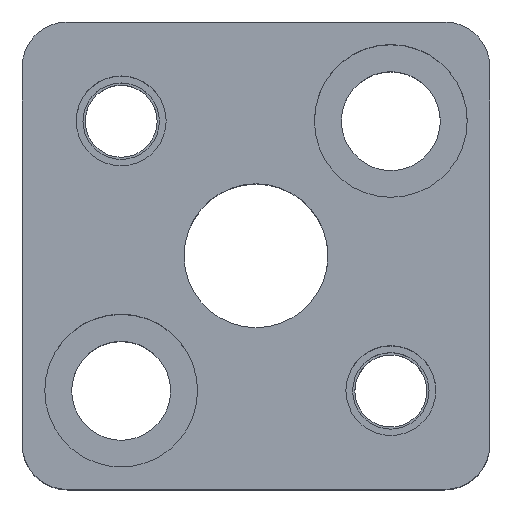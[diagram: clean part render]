
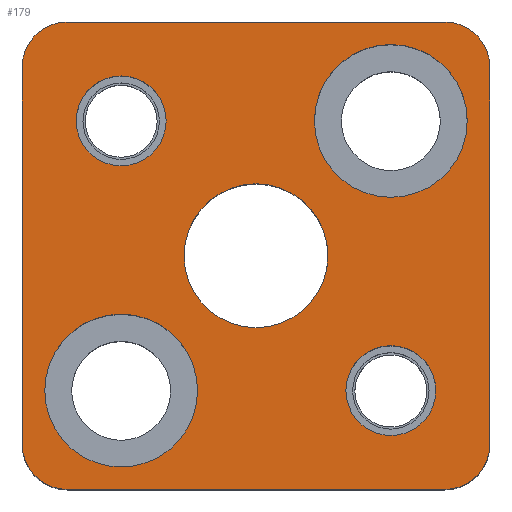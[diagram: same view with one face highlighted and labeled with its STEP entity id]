
A CAD part, top view. The second image highlights one B-rep face of the part: STEP entity #179.
In plain terms, the highlighted planar face has unit normal (0, 0, 1).
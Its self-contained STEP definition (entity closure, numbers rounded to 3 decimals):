
#111=FACE_BOUND('',#314,.T.);
#112=FACE_BOUND('',#315,.T.);
#113=FACE_BOUND('',#316,.T.);
#114=FACE_BOUND('',#317,.T.);
#115=FACE_BOUND('',#318,.T.);
#116=FACE_BOUND('',#319,.T.);
#140=PLANE('',#1098);
#179=ADVANCED_FACE('',(#111,#112,#113,#114,#115,#116),#140,.T.);
#314=EDGE_LOOP('',(#527,#528,#529,#530,#531,#532,#533,#534));
#315=EDGE_LOOP('',(#535,#536));
#316=EDGE_LOOP('',(#537,#538));
#317=EDGE_LOOP('',(#539,#540));
#318=EDGE_LOOP('',(#541,#542));
#319=EDGE_LOOP('',(#543,#544));
#377=CIRCLE('',#1062,5.);
#379=CIRCLE('',#1065,5.);
#381=CIRCLE('',#1069,5.);
#383=CIRCLE('',#1072,5.);
#393=CIRCLE('',#1088,5.);
#394=CIRCLE('',#1089,5.);
#395=CIRCLE('',#1090,5.);
#396=CIRCLE('',#1091,5.);
#397=CIRCLE('',#1092,8.5);
#398=CIRCLE('',#1093,8.5);
#399=CIRCLE('',#1094,8.5);
#400=CIRCLE('',#1095,8.5);
#401=CIRCLE('',#1096,8.);
#402=CIRCLE('',#1097,8.);
#527=ORIENTED_EDGE('',*,*,#838,.T.);
#528=ORIENTED_EDGE('',*,*,#839,.T.);
#529=ORIENTED_EDGE('',*,*,#840,.T.);
#530=ORIENTED_EDGE('',*,*,#841,.T.);
#531=ORIENTED_EDGE('',*,*,#842,.T.);
#532=ORIENTED_EDGE('',*,*,#843,.T.);
#533=ORIENTED_EDGE('',*,*,#844,.T.);
#534=ORIENTED_EDGE('',*,*,#845,.T.);
#535=ORIENTED_EDGE('',*,*,#846,.F.);
#536=ORIENTED_EDGE('',*,*,#847,.F.);
#537=ORIENTED_EDGE('',*,*,#848,.F.);
#538=ORIENTED_EDGE('',*,*,#849,.F.);
#539=ORIENTED_EDGE('',*,*,#824,.F.);
#540=ORIENTED_EDGE('',*,*,#820,.F.);
#541=ORIENTED_EDGE('',*,*,#818,.F.);
#542=ORIENTED_EDGE('',*,*,#814,.F.);
#543=ORIENTED_EDGE('',*,*,#850,.T.);
#544=ORIENTED_EDGE('',*,*,#851,.T.);
#715=VERTEX_POINT('',#1546);
#716=VERTEX_POINT('',#1547);
#719=VERTEX_POINT('',#1559);
#720=VERTEX_POINT('',#1560);
#731=VERTEX_POINT('',#1596);
#732=VERTEX_POINT('',#1597);
#733=VERTEX_POINT('',#1599);
#734=VERTEX_POINT('',#1601);
#735=VERTEX_POINT('',#1603);
#736=VERTEX_POINT('',#1605);
#737=VERTEX_POINT('',#1607);
#738=VERTEX_POINT('',#1609);
#739=VERTEX_POINT('',#1612);
#740=VERTEX_POINT('',#1613);
#741=VERTEX_POINT('',#1616);
#742=VERTEX_POINT('',#1617);
#743=VERTEX_POINT('',#1620);
#744=VERTEX_POINT('',#1621);
#814=EDGE_CURVE('',#715,#716,#377,.T.);
#818=EDGE_CURVE('',#716,#715,#379,.T.);
#820=EDGE_CURVE('',#719,#720,#381,.T.);
#824=EDGE_CURVE('',#720,#719,#383,.T.);
#838=EDGE_CURVE('',#731,#732,#393,.T.);
#839=EDGE_CURVE('',#732,#733,#931,.T.);
#840=EDGE_CURVE('',#733,#734,#394,.T.);
#841=EDGE_CURVE('',#734,#735,#932,.T.);
#842=EDGE_CURVE('',#735,#736,#395,.T.);
#843=EDGE_CURVE('',#736,#737,#933,.T.);
#844=EDGE_CURVE('',#737,#738,#396,.T.);
#845=EDGE_CURVE('',#738,#731,#934,.T.);
#846=EDGE_CURVE('',#739,#740,#397,.T.);
#847=EDGE_CURVE('',#740,#739,#398,.T.);
#848=EDGE_CURVE('',#741,#742,#399,.T.);
#849=EDGE_CURVE('',#742,#741,#400,.T.);
#850=EDGE_CURVE('',#743,#744,#401,.T.);
#851=EDGE_CURVE('',#744,#743,#402,.T.);
#931=LINE('',#1598,#992);
#932=LINE('',#1602,#993);
#933=LINE('',#1606,#994);
#934=LINE('',#1610,#995);
#992=VECTOR('',#1306,1.);
#993=VECTOR('',#1309,1.);
#994=VECTOR('',#1312,1.);
#995=VECTOR('',#1315,1.);
#1062=AXIS2_PLACEMENT_3D('',#1545,#1244,#1245);
#1065=AXIS2_PLACEMENT_3D('',#1554,#1252,#1253);
#1069=AXIS2_PLACEMENT_3D('',#1558,#1260,#1261);
#1072=AXIS2_PLACEMENT_3D('',#1567,#1268,#1269);
#1088=AXIS2_PLACEMENT_3D('',#1595,#1304,#1305);
#1089=AXIS2_PLACEMENT_3D('',#1600,#1307,#1308);
#1090=AXIS2_PLACEMENT_3D('',#1604,#1310,#1311);
#1091=AXIS2_PLACEMENT_3D('',#1608,#1313,#1314);
#1092=AXIS2_PLACEMENT_3D('',#1611,#1316,#1317);
#1093=AXIS2_PLACEMENT_3D('',#1614,#1318,#1319);
#1094=AXIS2_PLACEMENT_3D('',#1615,#1320,#1321);
#1095=AXIS2_PLACEMENT_3D('',#1618,#1322,#1323);
#1096=AXIS2_PLACEMENT_3D('',#1619,#1324,#1325);
#1097=AXIS2_PLACEMENT_3D('',#1622,#1326,#1327);
#1098=AXIS2_PLACEMENT_3D('',#1623,#1328,#1329);
#1244=DIRECTION('',(0.,0.,1.));
#1245=DIRECTION('',(-1.,0.,0.));
#1252=DIRECTION('',(0.,0.,1.));
#1253=DIRECTION('',(1.,0.,0.));
#1260=DIRECTION('',(0.,0.,1.));
#1261=DIRECTION('',(-1.,0.,0.));
#1268=DIRECTION('',(0.,0.,1.));
#1269=DIRECTION('',(1.,0.,0.));
#1304=DIRECTION('',(0.,0.,1.));
#1305=DIRECTION('',(-0.707,0.707,0.));
#1306=DIRECTION('',(0.,1.,0.));
#1307=DIRECTION('',(0.,0.,1.));
#1308=DIRECTION('',(-0.707,-0.707,0.));
#1309=DIRECTION('',(-1.,0.,0.));
#1310=DIRECTION('',(0.,0.,1.));
#1311=DIRECTION('',(0.707,-0.707,0.));
#1312=DIRECTION('',(0.,-1.,0.));
#1313=DIRECTION('',(0.,0.,1.));
#1314=DIRECTION('',(0.707,0.707,0.));
#1315=DIRECTION('',(1.,0.,0.));
#1316=DIRECTION('',(0.,0.,1.));
#1317=DIRECTION('',(1.,0.,0.));
#1318=DIRECTION('',(0.,0.,1.));
#1319=DIRECTION('',(-1.,0.,0.));
#1320=DIRECTION('',(0.,0.,1.));
#1321=DIRECTION('',(1.,0.,0.));
#1322=DIRECTION('',(0.,0.,1.));
#1323=DIRECTION('',(-1.,0.,0.));
#1324=DIRECTION('',(0.,0.,-1.));
#1325=DIRECTION('',(-1.,0.,0.));
#1326=DIRECTION('',(0.,0.,-1.));
#1327=DIRECTION('',(1.,0.,0.));
#1328=DIRECTION('',(0.,0.,1.));
#1329=DIRECTION('',(-1.,0.,0.));
#1545=CARTESIAN_POINT('',(15.,-15.,35.));
#1546=CARTESIAN_POINT('',(15.,-20.,35.));
#1547=CARTESIAN_POINT('',(15.,-10.,35.));
#1554=CARTESIAN_POINT('',(15.,-15.,35.));
#1558=CARTESIAN_POINT('',(-15.,15.,35.));
#1559=CARTESIAN_POINT('',(-15.,10.,35.));
#1560=CARTESIAN_POINT('',(-15.,20.,35.));
#1567=CARTESIAN_POINT('',(-15.,15.,35.));
#1595=CARTESIAN_POINT('',(21.,-21.,35.));
#1596=CARTESIAN_POINT('',(21.,-26.,35.));
#1597=CARTESIAN_POINT('',(26.,-21.,35.));
#1598=CARTESIAN_POINT('',(26.,21.,35.));
#1599=CARTESIAN_POINT('',(26.,21.,35.));
#1600=CARTESIAN_POINT('',(21.,21.,35.));
#1601=CARTESIAN_POINT('',(21.,26.,35.));
#1602=CARTESIAN_POINT('',(-21.,26.,35.));
#1603=CARTESIAN_POINT('',(-21.,26.,35.));
#1604=CARTESIAN_POINT('',(-21.,21.,35.));
#1605=CARTESIAN_POINT('',(-26.,21.,35.));
#1606=CARTESIAN_POINT('',(-26.,21.,35.));
#1607=CARTESIAN_POINT('',(-26.,-21.,35.));
#1608=CARTESIAN_POINT('',(-21.,-21.,35.));
#1609=CARTESIAN_POINT('',(-21.,-26.,35.));
#1610=CARTESIAN_POINT('',(-21.,-26.,35.));
#1611=CARTESIAN_POINT('',(15.,15.,35.));
#1612=CARTESIAN_POINT('',(15.,23.5,35.));
#1613=CARTESIAN_POINT('',(15.,6.5,35.));
#1614=CARTESIAN_POINT('',(15.,15.,35.));
#1615=CARTESIAN_POINT('',(-15.,-15.,35.));
#1616=CARTESIAN_POINT('',(-15.,-6.5,35.));
#1617=CARTESIAN_POINT('',(-15.,-23.5,35.));
#1618=CARTESIAN_POINT('',(-15.,-15.,35.));
#1619=CARTESIAN_POINT('',(0.,0.,35.));
#1620=CARTESIAN_POINT('',(0.,8.,35.));
#1621=CARTESIAN_POINT('',(0.,-8.,35.));
#1622=CARTESIAN_POINT('',(0.,0.,35.));
#1623=CARTESIAN_POINT('',(21.,-26.,35.));
